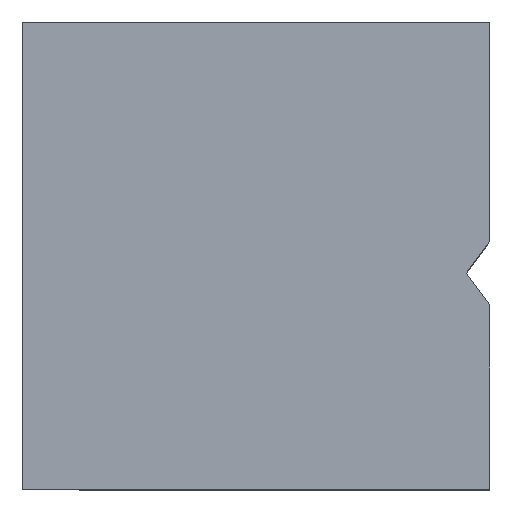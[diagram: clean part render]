
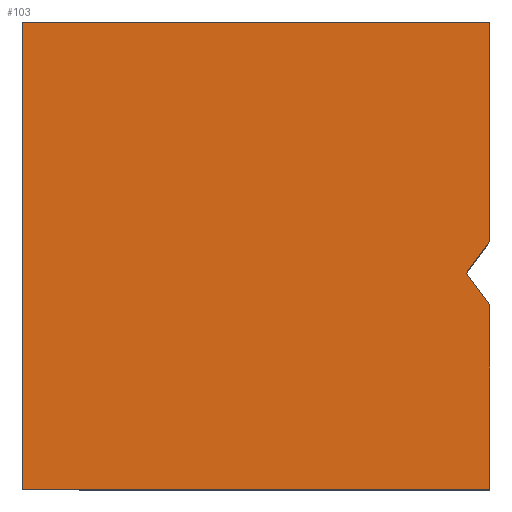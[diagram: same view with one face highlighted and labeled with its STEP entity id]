
A CAD part, top view. The second image highlights one B-rep face of the part: STEP entity #103.
In plain terms, the highlighted planar face has unit normal (0, 0, 1).
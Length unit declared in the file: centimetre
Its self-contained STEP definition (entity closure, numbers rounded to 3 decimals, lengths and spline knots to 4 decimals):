
#3 = DIRECTION ( 'NONE',  ( -0.591, 0.807, 0. ) ) ;
#11 = VECTOR ( 'NONE', #232, 100. ) ;
#12 = CARTESIAN_POINT ( 'NONE',  ( 0., 1000., 1000. ) ) ;
#29 = AXIS2_PLACEMENT_3D ( 'NONE', #199, #173, #326 ) ;
#36 = ORIENTED_EDGE ( 'NONE', *, *, #264, .T. ) ;
#42 = PLANE ( 'NONE',  #29 ) ;
#43 = FACE_OUTER_BOUND ( 'NONE', #215, .T. ) ;
#64 = VECTOR ( 'NONE', #387, 100. ) ;
#72 = CARTESIAN_POINT ( 'NONE',  ( 0., 0., 1000. ) ) ;
#84 = CARTESIAN_POINT ( 'NONE',  ( 0., 0., 1000. ) ) ;
#92 = LINE ( 'NONE', #285, #153 ) ;
#103 = ADVANCED_FACE ( 'NONE', ( #43 ), #42, .T. ) ;
#105 = EDGE_CURVE ( 'NONE', #248, #209, #236, .T. ) ;
#108 = LINE ( 'NONE', #139, #64 ) ;
#109 = DIRECTION ( 'NONE',  ( 0.591, 0.807, 0. ) ) ;
#123 = LINE ( 'NONE', #345, #329 ) ;
#128 = VERTEX_POINT ( 'NONE', #298 ) ;
#133 = VECTOR ( 'NONE', #109, 100. ) ;
#134 = CARTESIAN_POINT ( 'NONE',  ( 950., 462.7841, 1000. ) ) ;
#135 = EDGE_CURVE ( 'NONE', #194, #339, #358, .T. ) ;
#139 = CARTESIAN_POINT ( 'NONE',  ( 0., 1000., 1000. ) ) ;
#151 = ORIENTED_EDGE ( 'NONE', *, *, #175, .T. ) ;
#153 = VECTOR ( 'NONE', #257, 100. ) ;
#165 = EDGE_CURVE ( 'NONE', #128, #280, #108, .T. ) ;
#173 = DIRECTION ( 'NONE',  ( 0., 0., 1. ) ) ;
#175 = EDGE_CURVE ( 'NONE', #280, #248, #330, .T. ) ;
#194 = VERTEX_POINT ( 'NONE', #234 ) ;
#199 = CARTESIAN_POINT ( 'NONE',  ( 0., 0., 1000. ) ) ;
#203 = ORIENTED_EDGE ( 'NONE', *, *, #165, .T. ) ;
#209 = VERTEX_POINT ( 'NONE', #331 ) ;
#215 = EDGE_LOOP ( 'NONE', ( #338, #36, #203, #151, #321, #393, #324 ) ) ;
#232 = DIRECTION ( 'NONE',  ( 0., -1., 0. ) ) ;
#234 = CARTESIAN_POINT ( 'NONE',  ( 950., 462.7841, 1000. ) ) ;
#236 = LINE ( 'NONE', #72, #262 ) ;
#247 = CARTESIAN_POINT ( 'NONE',  ( 1000., 394.5485, 1000. ) ) ;
#248 = VERTEX_POINT ( 'NONE', #84 ) ;
#253 = LINE ( 'NONE', #397, #332 ) ;
#257 = DIRECTION ( 'NONE',  ( 0., 1., 0. ) ) ;
#262 = VECTOR ( 'NONE', #268, 100. ) ;
#264 = EDGE_CURVE ( 'NONE', #339, #128, #123, .T. ) ;
#268 = DIRECTION ( 'NONE',  ( 1., 0., 0. ) ) ;
#275 = CARTESIAN_POINT ( 'NONE',  ( 0., 1000., 1000. ) ) ;
#280 = VERTEX_POINT ( 'NONE', #275 ) ;
#285 = CARTESIAN_POINT ( 'NONE',  ( 1000., 1000., 1000. ) ) ;
#298 = CARTESIAN_POINT ( 'NONE',  ( 1000., 1000., 1000. ) ) ;
#321 = ORIENTED_EDGE ( 'NONE', *, *, #105, .T. ) ;
#324 = ORIENTED_EDGE ( 'NONE', *, *, #325, .T. ) ;
#325 = EDGE_CURVE ( 'NONE', #336, #194, #253, .T. ) ;
#326 = DIRECTION ( 'NONE',  ( 1., 0., 0. ) ) ;
#329 = VECTOR ( 'NONE', #340, 100. ) ;
#330 = LINE ( 'NONE', #12, #11 ) ;
#331 = CARTESIAN_POINT ( 'NONE',  ( 1000., 0., 1000. ) ) ;
#332 = VECTOR ( 'NONE', #3, 100. ) ;
#336 = VERTEX_POINT ( 'NONE', #247 ) ;
#338 = ORIENTED_EDGE ( 'NONE', *, *, #135, .T. ) ;
#339 = VERTEX_POINT ( 'NONE', #394 ) ;
#340 = DIRECTION ( 'NONE',  ( 0., 1., 0. ) ) ;
#345 = CARTESIAN_POINT ( 'NONE',  ( 1000., 1000., 1000. ) ) ;
#358 = LINE ( 'NONE', #134, #133 ) ;
#387 = DIRECTION ( 'NONE',  ( -1., 0., 0. ) ) ;
#391 = EDGE_CURVE ( 'NONE', #209, #336, #92, .T. ) ;
#393 = ORIENTED_EDGE ( 'NONE', *, *, #391, .T. ) ;
#394 = CARTESIAN_POINT ( 'NONE',  ( 1000., 531.0197, 1000. ) ) ;
#397 = CARTESIAN_POINT ( 'NONE',  ( 1000., 394.5485, 1000. ) ) ;
